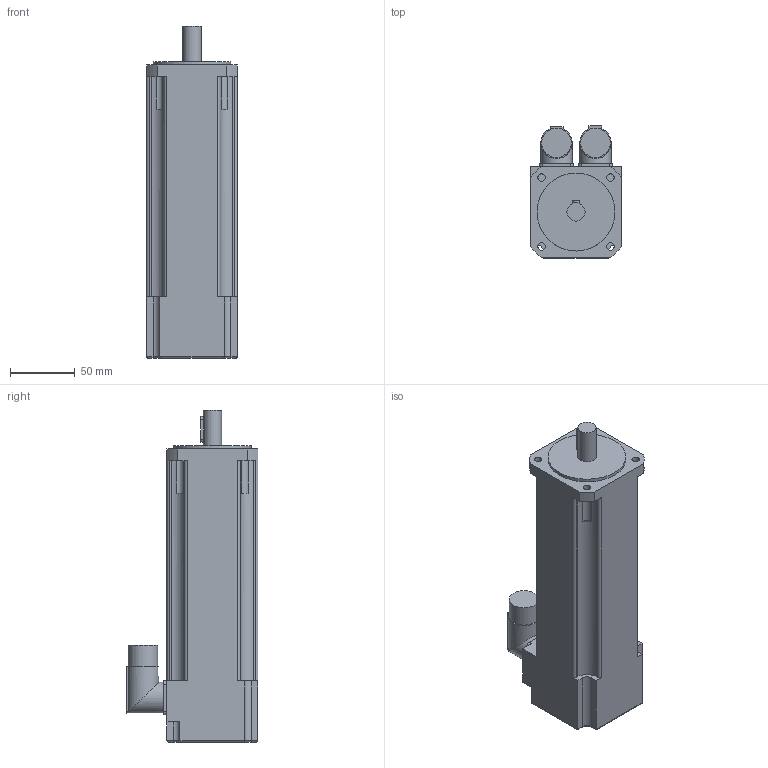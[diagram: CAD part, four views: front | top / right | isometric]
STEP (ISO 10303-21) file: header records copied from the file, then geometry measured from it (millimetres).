
FILE_DESCRIPTION(/* description */ (''),/* implementation_level */ '2;1');
FILE_NAME(/* name */ '\\Lafnas01\disegni\Archivi Lafert\3D\CAD 3D\MODELLI\Assiemi clienti\Serad\Modelli 3D Serad\B36Q\Encoder\Enc With brake\B3603Qxx6BRx2033.ipt.stp',/* time_stamp */ '2015-09-07T10:49:17+02:00',/* author */ ('Pastrello Ylenia'),/* organization */ (''),/* preprocessor_version */ 'ST-DEVELOPER v15.6',/* originating_system */ 'Autodesk Inventor 2015',/* authorisation */ '');
FILE_SCHEMA (('AUTOMOTIVE_DESIGN { 1 0 10303 214 3 1 1 }'));
Length unit declared in the file: millimetre
Products named in the file (1): B3603Qxx6BRx2033
Bounding box: 70 x 101.5 x 255.5 mm (x, y, z)
Volume: 1045313.9 mm3; surface area: 80543.6 mm2
Topology: 1 solids, 1 shells, 121 faces, 322 edges, 210 vertices
Faces by surface type: plane 59, cylinder 58, torus 4
Full cylindrical faces by diameter (mm): 5.8 x4, 14 x1, 22.7 x2, 24 x2, 60 x1
Entity records: 3806 total; most frequent: CARTESIAN_POINT 678, DIRECTION 676, ORIENTED_EDGE 624, EDGE_CURVE 312, AXIS2_PLACEMENT_3D 244, VERTEX_POINT 210, LINE 188, VECTOR 188
